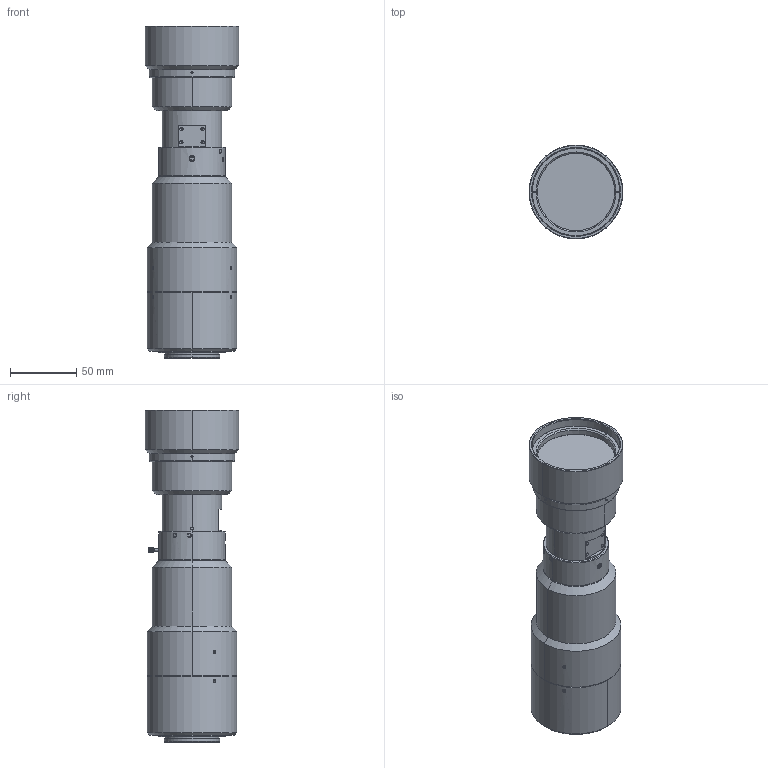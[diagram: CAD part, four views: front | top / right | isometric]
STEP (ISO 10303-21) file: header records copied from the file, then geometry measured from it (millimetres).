
FILE_DESCRIPTION (( 'STEP AP203' ), '1' );
FILE_NAME ('A22483A0000101A.STEP', '2016-11-30T07:38:41', ( '' ), ( '' ), 'SwSTEP 2.0', 'SolidWorks 2014', '' );
FILE_SCHEMA (( 'CONFIG_CONTROL_DESIGN' ));
Length unit declared in the file: millimetre
Products named in the file (1): A22483A0000101A
Bounding box: 71 x 71 x 250.97 mm (x, y, z)
Volume: 703315.8 mm3; surface area: 62871.4 mm2
Topology: 1 solids, 1 shells, 460 faces, 1187 edges, 766 vertices
Faces by surface type: cylinder 182, plane 162, cone 80, bspline 36
Entity records: 22304 total; most frequent: CARTESIAN_POINT 11790, ORIENTED_EDGE 2358, DIRECTION 1861, EDGE_CURVE 1179, VERTEX_POINT 766, AXIS2_PLACEMENT_3D 697, EDGE_LOOP 505, LINE 467
